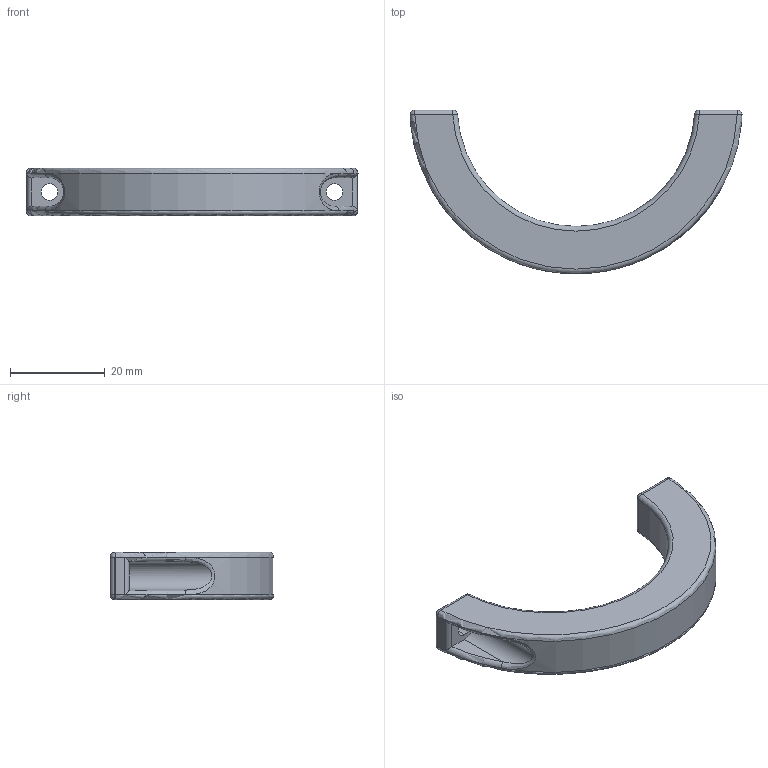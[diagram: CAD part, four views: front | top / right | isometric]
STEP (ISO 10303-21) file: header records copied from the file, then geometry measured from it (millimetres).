
FILE_DESCRIPTION (( 'STEP AP203' ), '1' );
FILE_NAME ('平行夹爪相机支架-抱紧环.STEP', '2025-08-21T06:42:41', ( '' ), ( '' ), 'SwSTEP 2.0', 'SolidWorks 2023', '' );
FILE_SCHEMA (( 'CONFIG_CONTROL_DESIGN' ));
Length unit declared in the file: millimetre
Products named in the file (1): 平行夹爪相机支架-抱紧环
Bounding box: 69.93 x 34.48 x 10 mm (x, y, z)
Volume: 8231.3 mm3; surface area: 4077.9 mm2
Topology: 1 solids, 1 shells, 51 faces, 116 edges, 59 vertices
Faces by surface type: cylinder 21, sphere 10, plane 10, torus 8, bspline 2
Entity records: 1824 total; most frequent: CARTESIAN_POINT 637, DIRECTION 259, ORIENTED_EDGE 216, AXIS2_PLACEMENT_3D 113, EDGE_CURVE 108, CIRCLE 63, VERTEX_POINT 59, EDGE_LOOP 55
